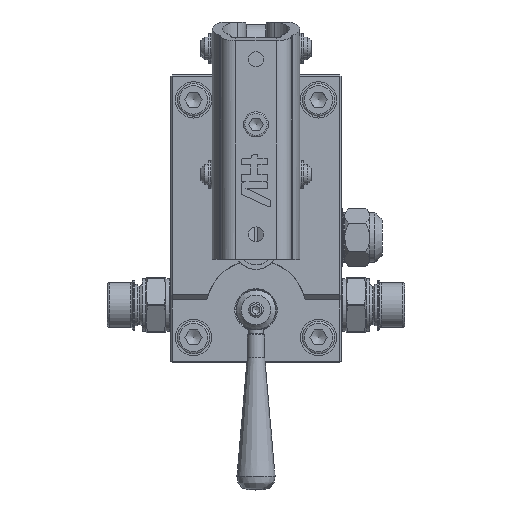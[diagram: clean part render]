
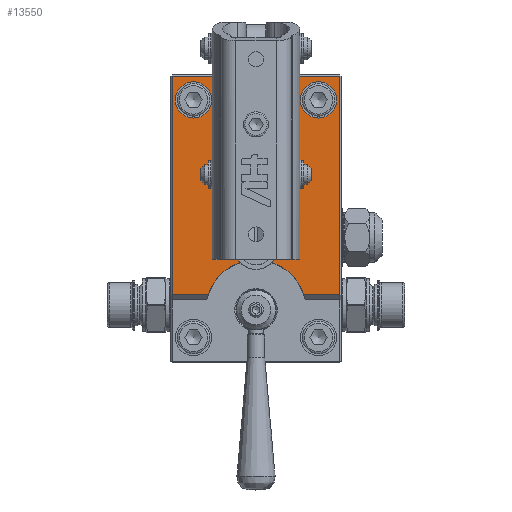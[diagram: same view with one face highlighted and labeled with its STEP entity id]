
A CAD part, top view. The second image highlights one B-rep face of the part: STEP entity #13550.
In plain terms, the highlighted planar face has unit normal (0, 0, 1).
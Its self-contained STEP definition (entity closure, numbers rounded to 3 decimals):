
#12005=CARTESIAN_POINT('',(67.5,114.5,48.));
#12006=VERTEX_POINT('',#12005);
#12016=CARTESIAN_POINT('',(0.5,114.5,48.));
#12017=VERTEX_POINT('',#12016);
#12024=CARTESIAN_POINT('',(0.5,114.5,48.));
#12025=DIRECTION('',(1.0,0.0,0.0));
#12026=VECTOR('',#12025,67.0);
#12027=LINE('',#12024,#12026);
#12028=EDGE_CURVE('',#12017,#12006,#12027,.T.);
#12340=CARTESIAN_POINT('',(0.5,27.,48.));
#12341=VERTEX_POINT('',#12340);
#12350=CARTESIAN_POINT('',(0.5,27.,48.));
#12351=DIRECTION('',(0.0,1.0,0.0));
#12352=VECTOR('',#12351,87.5);
#12353=LINE('',#12350,#12352);
#12354=EDGE_CURVE('',#12341,#12017,#12353,.T.);
#12431=CARTESIAN_POINT('',(14.921,27.,48.));
#12432=VERTEX_POINT('',#12431);
#12440=CARTESIAN_POINT('',(14.921,27.,48.));
#12441=DIRECTION('',(-1.0,0.0,0.0));
#12442=VECTOR('',#12441,14.421);
#12443=LINE('',#12440,#12442);
#12444=EDGE_CURVE('',#12432,#12341,#12443,.T.);
#12536=CARTESIAN_POINT('',(27.661,39.969,48.));
#12537=VERTEX_POINT('',#12536);
#12544=CARTESIAN_POINT('',(34.,21.,48.));
#12545=DIRECTION('',(0.0,0.0,-1.0));
#12546=DIRECTION('',(-1.0,0.0,0.0));
#12547=AXIS2_PLACEMENT_3D('',#12544,#12545,#12546);
#12548=CIRCLE('',#12547,20.0);
#12549=EDGE_CURVE('',#12432,#12537,#12548,.T.);
#12971=CARTESIAN_POINT('',(67.5,27.,48.));
#12972=VERTEX_POINT('',#12971);
#12981=CARTESIAN_POINT('',(67.5,114.5,48.));
#12982=DIRECTION('',(0.0,-1.0,0.0));
#12983=VECTOR('',#12982,87.5);
#12984=LINE('',#12981,#12983);
#12985=EDGE_CURVE('',#12006,#12972,#12984,.T.);
#13001=CARTESIAN_POINT('',(53.079,27.,48.));
#13002=VERTEX_POINT('',#13001);
#13003=CARTESIAN_POINT('',(67.5,27.,48.));
#13004=DIRECTION('',(-1.0,0.0,0.0));
#13005=VECTOR('',#13004,14.421);
#13006=LINE('',#13003,#13005);
#13007=EDGE_CURVE('',#12972,#13002,#13006,.T.);
#13055=CARTESIAN_POINT('',(40.339,39.969,48.));
#13056=VERTEX_POINT('',#13055);
#13065=CARTESIAN_POINT('',(34.,21.,48.));
#13066=DIRECTION('',(0.0,0.0,-1.0));
#13067=DIRECTION('',(-1.0,0.0,0.0));
#13068=AXIS2_PLACEMENT_3D('',#13065,#13066,#13067);
#13069=CIRCLE('',#13068,20.0);
#13070=EDGE_CURVE('',#13056,#13002,#13069,.T.);
#13106=CARTESIAN_POINT('',(34.,46.0,48.));
#13107=DIRECTION('',(0.0,0.0,-1.0));
#13108=DIRECTION('',(1.0,0.0,0.0));
#13109=AXIS2_PLACEMENT_3D('',#13106,#13107,#13108);
#13110=CIRCLE('',#13109,8.75);
#13111=EDGE_CURVE('',#12537,#13056,#13110,.T.);
#13266=CARTESIAN_POINT('',(66.25,105.0,48.));
#13267=VERTEX_POINT('',#13266);
#13268=CARTESIAN_POINT('',(59.,105.0,48.));
#13269=DIRECTION('',(0.0,0.0,-1.0));
#13270=DIRECTION('',(-1.0,0.0,0.0));
#13271=AXIS2_PLACEMENT_3D('',#13268,#13269,#13270);
#13272=CIRCLE('',#13271,7.25);
#13273=EDGE_CURVE('',#13267,#13267,#13272,.T.);
#13306=CARTESIAN_POINT('',(16.25,105.0,48.));
#13307=VERTEX_POINT('',#13306);
#13308=CARTESIAN_POINT('',(9.,105.0,48.));
#13309=DIRECTION('',(0.0,0.0,-1.0));
#13310=DIRECTION('',(-1.0,0.0,0.0));
#13311=AXIS2_PLACEMENT_3D('',#13308,#13309,#13310);
#13312=CIRCLE('',#13311,7.25);
#13313=EDGE_CURVE('',#13307,#13307,#13312,.T.);
#13518=CARTESIAN_POINT('',(34.,57.5,48.));
#13519=DIRECTION('',(0.0,0.0,1.0));
#13520=DIRECTION('',(1.0,0.0,0.0));
#13521=AXIS2_PLACEMENT_3D('',#13518,#13519,#13520);
#13522=PLANE('',#13521);
#13523=ORIENTED_EDGE('',*,*,#13111,.T.);
#13524=ORIENTED_EDGE('',*,*,#13070,.T.);
#13525=ORIENTED_EDGE('',*,*,#13007,.F.);
#13526=ORIENTED_EDGE('',*,*,#12985,.F.);
#13527=ORIENTED_EDGE('',*,*,#12028,.F.);
#13528=ORIENTED_EDGE('',*,*,#12354,.F.);
#13529=ORIENTED_EDGE('',*,*,#12444,.F.);
#13530=ORIENTED_EDGE('',*,*,#12549,.T.);
#13531=EDGE_LOOP('',(#13523,#13524,#13525,#13526,#13527,#13528,#13529,#13530));
#13532=FACE_OUTER_BOUND('',#13531,.T.);
#13533=ORIENTED_EDGE('',*,*,#13273,.T.);
#13534=EDGE_LOOP('',(#13533));
#13535=FACE_BOUND('',#13534,.T.);
#13536=ORIENTED_EDGE('',*,*,#13313,.T.);
#13537=EDGE_LOOP('',(#13536));
#13538=FACE_BOUND('',#13537,.T.);
#13539=CARTESIAN_POINT('',(19.25,75.0,48.));
#13540=VERTEX_POINT('',#13539);
#13541=CARTESIAN_POINT('',(34.,75.0,48.));
#13542=DIRECTION('',(0.0,0.0,1.0));
#13543=DIRECTION('',(1.0,0.0,0.0));
#13544=AXIS2_PLACEMENT_3D('',#13541,#13542,#13543);
#13545=CIRCLE('',#13544,14.75);
#13546=EDGE_CURVE('',#13540,#13540,#13545,.T.);
#13547=ORIENTED_EDGE('',*,*,#13546,.F.);
#13548=EDGE_LOOP('',(#13547));
#13549=FACE_BOUND('',#13548,.T.);
#13550=ADVANCED_FACE('',(#13532,#13535,#13538,#13549),#13522,.T.);
